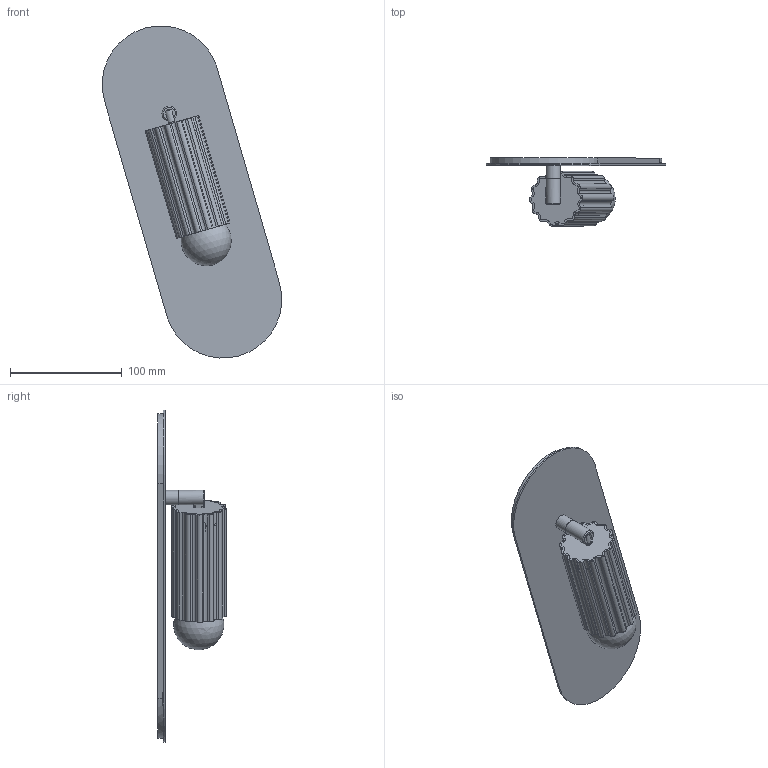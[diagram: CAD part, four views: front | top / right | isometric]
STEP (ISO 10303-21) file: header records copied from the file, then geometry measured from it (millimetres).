
FILE_DESCRIPTION(/* description */ (''),/* implementation_level */ '2;1');
FILE_NAME(/* name */ '250711_B_B743 Vesta kierunkowa.stp',/* time_stamp */ '2025-07-11T09:11:19+02:00',/* author */ ('Lukasz'),/* organization */ (''),/* preprocessor_version */ 'ST-DEVELOPER v20.1',/* originating_system */ 'Autodesk Inventor 2026',/* authorisation */ '');
FILE_SCHEMA (('AUTOMOTIVE_DESIGN { 1 0 10303 214 3 1 1 }'));
Length unit declared in the file: millimetre
Products named in the file (1): B743 Vesta kierunkowa CE v0 - katalog
Bounding box: 160.47 x 61.02 x 296.85 mm (x, y, z)
Volume: 448568.8 mm3; surface area: 164003.9 mm2
Topology: 12 solids, 12 shells, 269 faces, 680 edges, 448 vertices
Faces by surface type: plane 144, cylinder 111, torus 6, cone 5, bspline 2, sphere 1
Full cylindrical faces by diameter (mm): 10 x1, 12 x1, 13 x2, 17 x1, 24 x1, 26 x1, 36.5 x1, 41.8 x1
Entity records: 8599 total; most frequent: CARTESIAN_POINT 1555, DIRECTION 1464, ORIENTED_EDGE 1342, EDGE_CURVE 671, AXIS2_PLACEMENT_3D 526, VERTEX_POINT 431, LINE 412, VECTOR 412
